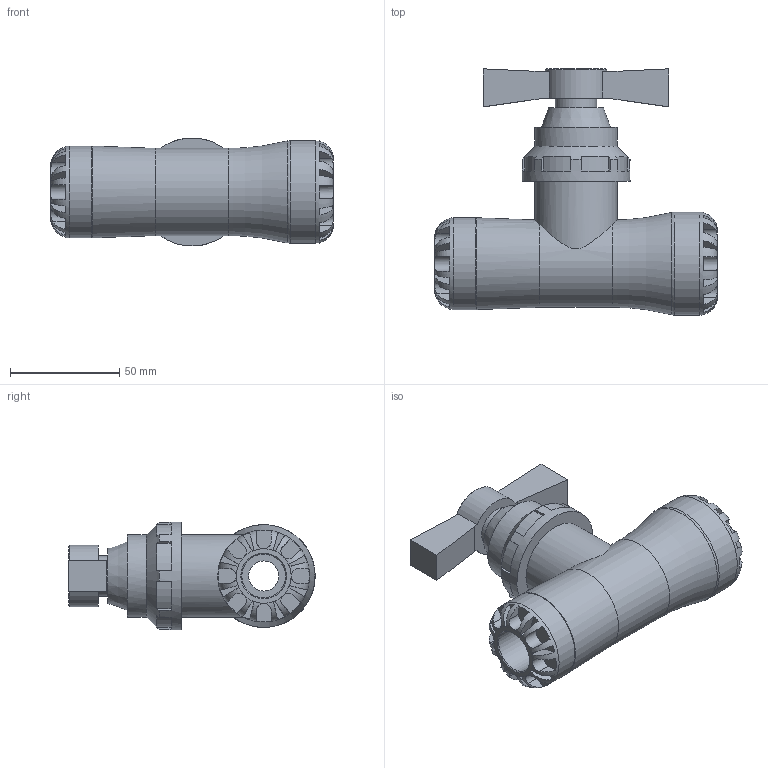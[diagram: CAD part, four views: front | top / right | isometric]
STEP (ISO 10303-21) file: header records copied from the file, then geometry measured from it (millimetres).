
FILE_DESCRIPTION(/* description */ ('Plasson COMPRESSION STOPTAP 25-20 SERIES 1'),/* implementation_level */ '2;1');
FILE_NAME(/* name */ 'C:\Dropbox\KIMPROJECTS-Inventor\99-16-3568-Processing\03410\34100025020.ipt.stp',/* time_stamp */ '2017-02-12T12:00:51+02:00',/* author */ ('KIM'),/* organization */ (''),/* preprocessor_version */ 'ST-DEVELOPER v15.6',/* originating_system */ 'Autodesk Inventor 2015',/* authorisation */ '');
FILE_SCHEMA (('AUTOMOTIVE_DESIGN { 1 0 10303 214 3 1 1 }'));
Length unit declared in the file: millimetre
Products named in the file (1): 34100025020
Bounding box: 129 x 112.5 x 49.33 mm (x, y, z)
Volume: 211920.1 mm3; surface area: 43068.1 mm2
Topology: 1 solids, 1 shells, 205 faces, 532 edges, 335 vertices
Faces by surface type: plane 143, cylinder 50, torus 7, cone 5
Full cylindrical faces by diameter (mm): 18.8 x1, 20 x1, 25 x1, 28.2 x1, 37.6 x2, 42 x1, 47 x1, 49.35 x1
Entity records: 7448 total; most frequent: CARTESIAN_POINT 2453, ORIENTED_EDGE 1004, DIRECTION 974, EDGE_CURVE 502, AXIS2_PLACEMENT_3D 382, VERTEX_POINT 326, EDGE_LOOP 234, LINE 210
